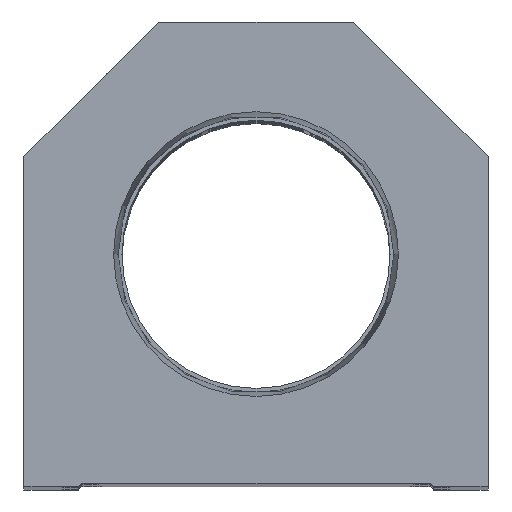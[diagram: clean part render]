
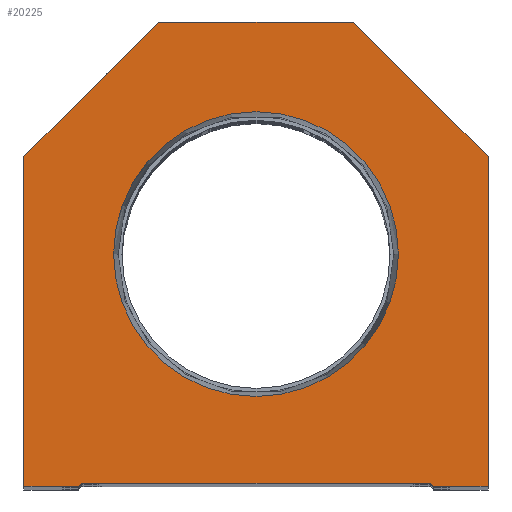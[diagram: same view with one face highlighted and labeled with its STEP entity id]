
A CAD part, top view. The second image highlights one B-rep face of the part: STEP entity #20225.
In plain terms, the highlighted planar face has unit normal (0, 0, 1).
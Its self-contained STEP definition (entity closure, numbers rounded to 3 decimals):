
#901 = ORIENTED_EDGE ( 'NONE', *, *, #13170, .T. ) ;
#1053 = CARTESIAN_POINT ( 'NONE',  ( -23.374, 38.1, 0. ) ) ;
#1282 = EDGE_CURVE ( 'NONE', #16095, #21001, #2958, .T. ) ;
#1300 = EDGE_LOOP ( 'NONE', ( #5059, #4136 ) ) ;
#1450 = CARTESIAN_POINT ( 'NONE',  ( 28.6, 0., 0. ) ) ;
#1663 = ORIENTED_EDGE ( 'NONE', *, *, #1282, .T. ) ;
#1728 = EDGE_LOOP ( 'NONE', ( #21760, #8001, #20356, #13230, #19909, #901, #8396, #1663, #7681, #5554 ) ) ;
#2074 = VECTOR ( 'NONE', #22058, 1000. ) ;
#2574 = VECTOR ( 'NONE', #13981, 1000. ) ;
#2715 = VERTEX_POINT ( 'NONE', #9435 ) ;
#2801 = CARTESIAN_POINT ( 'NONE',  ( -28.6, 0.5, 0. ) ) ;
#2955 = DIRECTION ( 'NONE',  ( 1., 0., 0. ) ) ;
#2958 = LINE ( 'NONE', #9827, #18515 ) ;
#3125 = CARTESIAN_POINT ( 'NONE',  ( -38.1, 54.1, 0. ) ) ;
#3657 = LINE ( 'NONE', #17414, #5823 ) ;
#3886 = CARTESIAN_POINT ( 'NONE',  ( -14.55, 14.55, 0. ) ) ;
#3954 = FACE_OUTER_BOUND ( 'NONE', #1728, .T. ) ;
#4136 = ORIENTED_EDGE ( 'NONE', *, *, #5057, .F. ) ;
#4423 = DIRECTION ( 'NONE',  ( -0.707, 0.707, 0. ) ) ;
#4593 = LINE ( 'NONE', #3125, #2074 ) ;
#4708 = EDGE_CURVE ( 'NONE', #9659, #13785, #14972, .T. ) ;
#4941 = VERTEX_POINT ( 'NONE', #15179 ) ;
#5057 = EDGE_CURVE ( 'NONE', #20623, #5862, #21375, .T. ) ;
#5059 = ORIENTED_EDGE ( 'NONE', *, *, #19234, .F. ) ;
#5554 = ORIENTED_EDGE ( 'NONE', *, *, #19079, .T. ) ;
#5823 = VECTOR ( 'NONE', #10981, 1000. ) ;
#5862 = VERTEX_POINT ( 'NONE', #15306 ) ;
#6096 = EDGE_CURVE ( 'NONE', #2715, #9659, #7378, .T. ) ;
#6424 = DIRECTION ( 'NONE',  ( -1., 0., 0. ) ) ;
#6648 = CARTESIAN_POINT ( 'NONE',  ( 38.1, 54.1, 0. ) ) ;
#6844 = LINE ( 'NONE', #1450, #14330 ) ;
#7004 = VECTOR ( 'NONE', #19430, 1000. ) ;
#7325 = CARTESIAN_POINT ( 'NONE',  ( -28.6, 0.5, 0. ) ) ;
#7378 = LINE ( 'NONE', #3886, #7004 ) ;
#7423 = VERTEX_POINT ( 'NONE', #6648 ) ;
#7573 = VECTOR ( 'NONE', #20167, 1000. ) ;
#7681 = ORIENTED_EDGE ( 'NONE', *, *, #8383, .T. ) ;
#7696 = CARTESIAN_POINT ( 'NONE',  ( 38.1, 54.1, 0. ) ) ;
#7983 = DIRECTION ( 'NONE',  ( 1., 0., 0. ) ) ;
#8001 = ORIENTED_EDGE ( 'NONE', *, *, #6096, .T. ) ;
#8234 = VECTOR ( 'NONE', #18884, 1000. ) ;
#8383 = EDGE_CURVE ( 'NONE', #21001, #15561, #4593, .T. ) ;
#8396 = ORIENTED_EDGE ( 'NONE', *, *, #19108, .T. ) ;
#8430 = DIRECTION ( 'NONE',  ( 1., 0., 0. ) ) ;
#9364 = VERTEX_POINT ( 'NONE', #19284 ) ;
#9435 = CARTESIAN_POINT ( 'NONE',  ( -29.1, 0., 0. ) ) ;
#9659 = VERTEX_POINT ( 'NONE', #7325 ) ;
#9827 = CARTESIAN_POINT ( 'NONE',  ( 16., 76.2, 0. ) ) ;
#10541 = AXIS2_PLACEMENT_3D ( 'NONE', #17599, #12190, #18109 ) ;
#10847 = CARTESIAN_POINT ( 'NONE',  ( 0., 0., 0. ) ) ;
#10858 = CARTESIAN_POINT ( 'NONE',  ( 38.1, 0., 0. ) ) ;
#10981 = DIRECTION ( 'NONE',  ( 0., -1., 0. ) ) ;
#11519 = DIRECTION ( 'NONE',  ( 0., 0., 1. ) ) ;
#11739 = CARTESIAN_POINT ( 'NONE',  ( 0., 38.1, 0. ) ) ;
#11848 = CARTESIAN_POINT ( 'NONE',  ( -16., 76.2, 0. ) ) ;
#11913 = CARTESIAN_POINT ( 'NONE',  ( -28.6, 0., 0. ) ) ;
#12190 = DIRECTION ( 'NONE',  ( 0., 0., 1. ) ) ;
#12681 = CIRCLE ( 'NONE', #10541, 23.374 ) ;
#13170 = EDGE_CURVE ( 'NONE', #15478, #7423, #19040, .T. ) ;
#13230 = ORIENTED_EDGE ( 'NONE', *, *, #13650, .T. ) ;
#13650 = EDGE_CURVE ( 'NONE', #13785, #4941, #16697, .T. ) ;
#13785 = VERTEX_POINT ( 'NONE', #20088 ) ;
#13981 = DIRECTION ( 'NONE',  ( 0., 1., 0. ) ) ;
#14111 = DIRECTION ( 'NONE',  ( 1., 0., 0. ) ) ;
#14330 = VECTOR ( 'NONE', #8430, 1000. ) ;
#14972 = LINE ( 'NONE', #2801, #15842 ) ;
#15112 = CARTESIAN_POINT ( 'NONE',  ( 14.55, 14.55, 0. ) ) ;
#15179 = CARTESIAN_POINT ( 'NONE',  ( 29.1, 0., 0. ) ) ;
#15306 = CARTESIAN_POINT ( 'NONE',  ( 23.374, 38.1, 0. ) ) ;
#15478 = VERTEX_POINT ( 'NONE', #10858 ) ;
#15561 = VERTEX_POINT ( 'NONE', #16252 ) ;
#15691 = DIRECTION ( 'NONE',  ( 0., 0., 1. ) ) ;
#15842 = VECTOR ( 'NONE', #7983, 1000. ) ;
#16095 = VERTEX_POINT ( 'NONE', #19047 ) ;
#16252 = CARTESIAN_POINT ( 'NONE',  ( -38.1, 54.1, 0. ) ) ;
#16484 = AXIS2_PLACEMENT_3D ( 'NONE', #10847, #15691, #14111 ) ;
#16697 = LINE ( 'NONE', #15112, #7573 ) ;
#17340 = LINE ( 'NONE', #11913, #8234 ) ;
#17414 = CARTESIAN_POINT ( 'NONE',  ( -38.1, 0., 0. ) ) ;
#17599 = CARTESIAN_POINT ( 'NONE',  ( 0., 38.1, 0. ) ) ;
#18109 = DIRECTION ( 'NONE',  ( 1., 0., 0. ) ) ;
#18419 = VECTOR ( 'NONE', #4423, 1000. ) ;
#18515 = VECTOR ( 'NONE', #6424, 1000. ) ;
#18884 = DIRECTION ( 'NONE',  ( 1., 0., 0. ) ) ;
#19040 = LINE ( 'NONE', #20629, #2574 ) ;
#19047 = CARTESIAN_POINT ( 'NONE',  ( 16., 76.2, 0. ) ) ;
#19079 = EDGE_CURVE ( 'NONE', #15561, #9364, #3657, .T. ) ;
#19108 = EDGE_CURVE ( 'NONE', #7423, #16095, #19855, .T. ) ;
#19166 = FACE_BOUND ( 'NONE', #1300, .T. ) ;
#19234 = EDGE_CURVE ( 'NONE', #5862, #20623, #12681, .T. ) ;
#19284 = CARTESIAN_POINT ( 'NONE',  ( -38.1, 0., 0. ) ) ;
#19381 = PLANE ( 'NONE',  #16484 ) ;
#19414 = EDGE_CURVE ( 'NONE', #9364, #2715, #17340, .T. ) ;
#19430 = DIRECTION ( 'NONE',  ( 0.707, 0.707, 0. ) ) ;
#19566 = AXIS2_PLACEMENT_3D ( 'NONE', #11739, #11519, #2955 ) ;
#19855 = LINE ( 'NONE', #7696, #18419 ) ;
#19909 = ORIENTED_EDGE ( 'NONE', *, *, #20347, .T. ) ;
#20088 = CARTESIAN_POINT ( 'NONE',  ( 28.6, 0.5, 0. ) ) ;
#20167 = DIRECTION ( 'NONE',  ( 0.707, -0.707, 0. ) ) ;
#20225 = ADVANCED_FACE ( 'NONE', ( #19166, #3954 ), #19381, .T. ) ;
#20347 = EDGE_CURVE ( 'NONE', #4941, #15478, #6844, .T. ) ;
#20356 = ORIENTED_EDGE ( 'NONE', *, *, #4708, .T. ) ;
#20623 = VERTEX_POINT ( 'NONE', #1053 ) ;
#20629 = CARTESIAN_POINT ( 'NONE',  ( 38.1, 0., 0. ) ) ;
#21001 = VERTEX_POINT ( 'NONE', #11848 ) ;
#21375 = CIRCLE ( 'NONE', #19566, 23.374 ) ;
#21760 = ORIENTED_EDGE ( 'NONE', *, *, #19414, .T. ) ;
#22058 = DIRECTION ( 'NONE',  ( -0.707, -0.707, 0. ) ) ;
